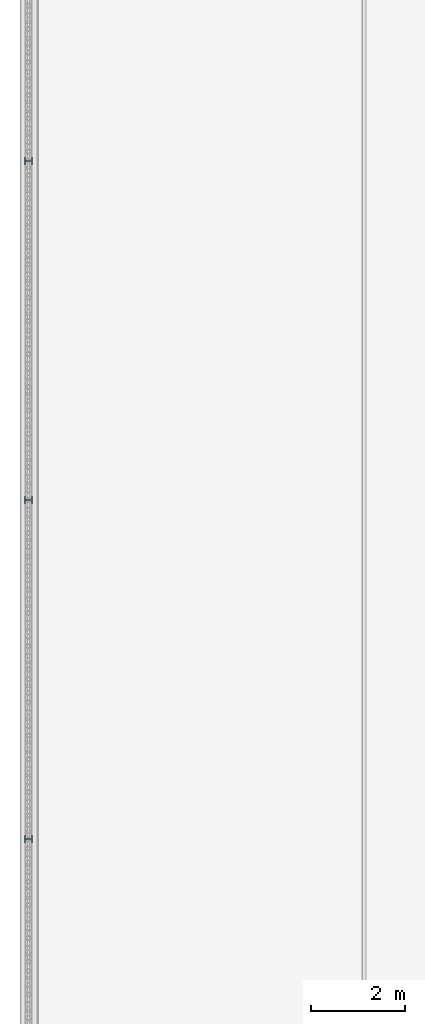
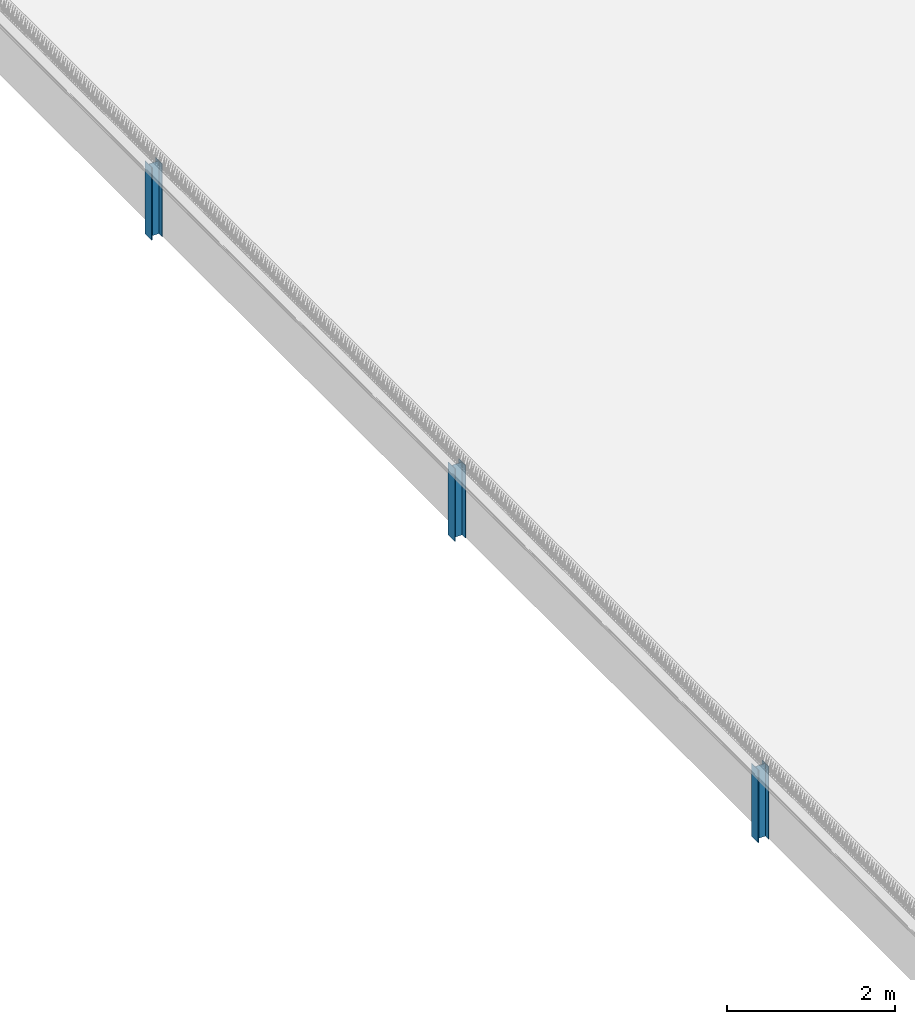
# One storey, part 7 of 81: 3 columns.
"""IFC2X3 building model written with IfcOpenShell, lengths in millimetres."""

from ifc_helpers import new_model, entity, si_unit, converted_unit, derived_unit, money_unit, direction, frame, origin_with_axes, place, context, subcontext, project, spatial, faceted_brep, material, type_object, element, save


model = new_model("IFC2X3")

# Units and contexts
model_context = context("Model", 3, precision=0.01, world=origin_with_axes(), true_north=direction((0.0, 1.0)))
body_context = subcontext(model_context, "Body", "Model", "MODEL_VIEW")
ifc_project = project(units=[si_unit("LENGTHUNIT", "METRE", prefix="MILLI"), si_unit("AREAUNIT", "SQUARE_METRE"), si_unit("VOLUMEUNIT", "CUBIC_METRE"), converted_unit("PLANEANGLEUNIT", "DEGREE", entity("IfcPlaneAngleMeasure", 0.0174532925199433), si_unit("PLANEANGLEUNIT", "RADIAN"), dimensions=[0, 0, 0, 0, 0, 0, 0]), money_unit("EUR"), converted_unit("TIMEUNIT", "Year", entity("IfcTimeMeasure", 31557600.0), si_unit("TIMEUNIT", "SECOND"), dimensions=[0, 0, 1, 0, 0, 0, 0]), si_unit("MASSUNIT", "GRAM", prefix="KILO"), si_unit("THERMODYNAMICTEMPERATUREUNIT", "DEGREE_CELSIUS"), si_unit("LUMINOUSINTENSITYUNIT", "LUMEN"), si_unit("ENERGYUNIT", "JOULE", prefix="MEGA"), derived_unit("THERMALCONDUCTANCEUNIT", [(si_unit("POWERUNIT", "WATT"), 1), (si_unit("LENGTHUNIT", "METRE"), -1), (si_unit("THERMODYNAMICTEMPERATUREUNIT", "KELVIN"), -1)]), derived_unit("SPECIFICHEATCAPACITYUNIT", [(si_unit("ENERGYUNIT", "JOULE"), 1), (si_unit("MASSUNIT", "GRAM", prefix="KILO"), -1), (si_unit("THERMODYNAMICTEMPERATUREUNIT", "KELVIN"), -1)]), derived_unit("MASSDENSITYUNIT", [(si_unit("MASSUNIT", "GRAM", prefix="KILO"), 1), (si_unit("VOLUMEUNIT", "CUBIC_METRE"), -1)])], contexts=[model_context])

# Site, building, storey
site_placement = place(None, origin_with_axes())
site = spatial("IfcSite", under=ifc_project, at=site_placement, Name="Site", CompositionType="ELEMENT")
building_placement = place(site_placement, origin_with_axes())
building = spatial("IfcBuilding", under=site, at=building_placement, Name="Naam gebouw", CompositionType="ELEMENT")
storey_placement = place(building_placement, frame((0.0, 0.0, 15320.0), z_axis=(0.0, 0.0, 1.0), x_axis=(1.0, 0.0, 0.0)))
storey = spatial("IfcBuildingStorey", under=building, at=storey_placement, Name="01 dak", CompositionType="ELEMENT", Elevation=15320.0)

# Columns
ifc_material = material(Name="Metaal - Staal C")
column_type = type_object("IfcColumnType", Name="HEA160 160 x 152", PredefinedType="COLUMN")
for number, where, z_axis, x_axis, name in (
    (1, (25376.0, 58800.00000000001, -400.0393597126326), (0.0, 0.0, 1.0), (0.0, 1.0, 0.0), "HEA160"),
    (2, (25376.0, 73200.0, -400.0393597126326), (0.0, 0.0, 1.0), (0.0, 1.0, 0.0), "HEA160"),
    (3, (25376.0, 66000.0, -400.0393597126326), (0.0, 0.0, 1.0), (0.0, 1.0, 0.0), "HEA160"),
):
    element("IfcColumn", number, at=place(storey_placement, frame(where, z_axis=z_axis, x_axis=x_axis)), inside=storey, type_object=column_type, material=ifc_material, Name=name, ObjectType="COLUMN", context=body_context, shape_type="Brep", body=[
        faceted_brep([(-79.9999999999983, 76.00000000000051, 1055.0), (-79.9999999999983, 76.00000000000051, 0.0), (-79.9999999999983, 67.00000000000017, 0.0), (-79.9999999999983, 67.00000000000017, 1055.0), (79.9999999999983, 76.00000000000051, 1055.0), (79.9999999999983, 76.00000000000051, 0.0), (79.9999999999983, 67.00000000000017, 0.0), (3.000000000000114, 67.00000000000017, 0.0), (3.000000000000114, -67.00000000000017, 0.0), (79.9999999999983, -67.00000000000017, 0.0), (79.9999999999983, -76.00000000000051, 0.0), (-79.9999999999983, -76.00000000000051, 0.0), (-79.9999999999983, -67.00000000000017, 0.0), (-3.000000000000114, -67.00000000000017, 0.0), (-3.000000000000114, 67.00000000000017, 0.0), (-3.000000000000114, 67.00000000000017, 1055.0), (-3.000000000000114, -67.00000000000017, 1055.0), (-79.9999999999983, -67.00000000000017, 1055.0), (-79.9999999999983, -76.00000000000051, 1055.0), (79.9999999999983, -76.00000000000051, 1055.0), (79.9999999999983, -67.00000000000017, 1055.0), (3.000000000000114, -67.00000000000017, 1055.0), (3.000000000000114, 67.00000000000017, 1055.0), (79.9999999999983, 67.00000000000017, 1055.0)], [[[0, 1, 2, 3]], [[4, 5, 1, 0]], [[2, 1, 5, 6, 7, 8, 9, 10, 11, 12, 13, 14]], [[3, 2, 14, 15]], [[4, 0, 3, 15, 16, 17, 18, 19, 20, 21, 22, 23]], [[23, 6, 5, 4]], [[22, 7, 6, 23]], [[21, 8, 7, 22]], [[20, 9, 8, 21]], [[19, 10, 9, 20]], [[18, 11, 10, 19]], [[17, 12, 11, 18]], [[16, 13, 12, 17]], [[15, 14, 13, 16]]]),
    ])

save(model, "model.ifc")
